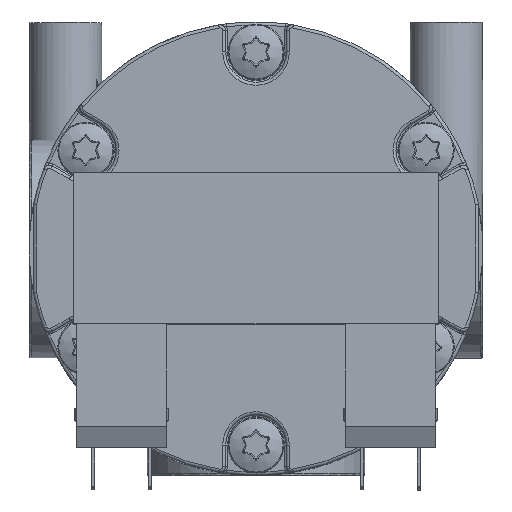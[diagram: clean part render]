
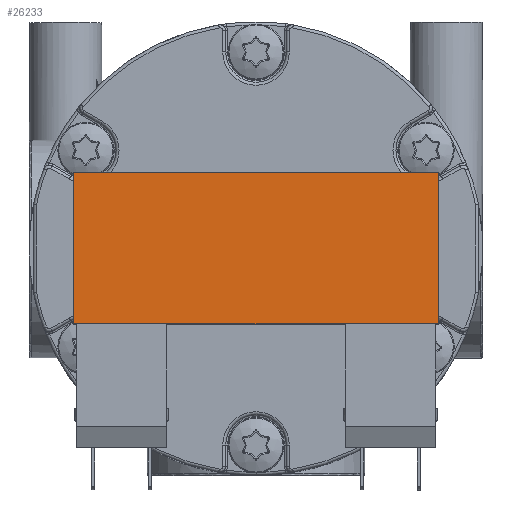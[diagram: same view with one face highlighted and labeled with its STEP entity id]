
A CAD part, top view. The second image highlights one B-rep face of the part: STEP entity #26233.
In plain terms, the highlighted planar face has unit normal (0, 0, 1).
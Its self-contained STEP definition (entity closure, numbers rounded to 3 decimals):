
#1389=PLANE('',#28211);
#2076=FACE_OUTER_BOUND('',#3736,.T.);
#3736=EDGE_LOOP('',(#17236,#17237,#17238,#17239,#17240,#17241,#17242,#17243));
#5456=LINE('',#41753,#6848);
#5464=LINE('',#41769,#6856);
#5468=LINE('',#41776,#6860);
#5471=LINE('',#41795,#6863);
#5473=LINE('',#41800,#6865);
#5474=LINE('',#41801,#6866);
#5475=LINE('',#41803,#6867);
#5478=LINE('',#41808,#6870);
#6848=VECTOR('',#32362,10.);
#6856=VECTOR('',#32378,10.);
#6860=VECTOR('',#32384,10.);
#6863=VECTOR('',#32407,10.);
#6865=VECTOR('',#32411,10.);
#6866=VECTOR('',#32412,10.);
#6867=VECTOR('',#32413,10.);
#6870=VECTOR('',#32418,10.);
#10160=VERTEX_POINT('',#41645);
#10193=VERTEX_POINT('',#41752);
#10196=VERTEX_POINT('',#41766);
#10197=VERTEX_POINT('',#41768);
#10198=VERTEX_POINT('',#41772);
#10199=VERTEX_POINT('',#41774);
#10207=VERTEX_POINT('',#41798);
#10208=VERTEX_POINT('',#41802);
#12811=EDGE_CURVE('',#10193,#10160,#5456,.T.);
#12819=EDGE_CURVE('',#10196,#10197,#5464,.T.);
#12823=EDGE_CURVE('',#10198,#10199,#5468,.T.);
#12832=EDGE_CURVE('',#10199,#10197,#5471,.T.);
#12834=EDGE_CURVE('',#10160,#10207,#5473,.T.);
#12835=EDGE_CURVE('',#10196,#10193,#5474,.T.);
#12836=EDGE_CURVE('',#10208,#10198,#5475,.T.);
#12839=EDGE_CURVE('',#10207,#10208,#5478,.T.);
#17236=ORIENTED_EDGE('',*,*,#12832,.T.);
#17237=ORIENTED_EDGE('',*,*,#12819,.F.);
#17238=ORIENTED_EDGE('',*,*,#12835,.T.);
#17239=ORIENTED_EDGE('',*,*,#12811,.T.);
#17240=ORIENTED_EDGE('',*,*,#12834,.T.);
#17241=ORIENTED_EDGE('',*,*,#12839,.T.);
#17242=ORIENTED_EDGE('',*,*,#12836,.T.);
#17243=ORIENTED_EDGE('',*,*,#12823,.T.);
#26233=ADVANCED_FACE('',(#2076),#1389,.T.);
#28211=AXIS2_PLACEMENT_3D('',#41807,#32416,#32417);
#32362=DIRECTION('',(1.,0.,0.));
#32378=DIRECTION('',(0.,1.,0.));
#32384=DIRECTION('',(0.,1.,0.));
#32407=DIRECTION('',(-1.,0.,0.));
#32411=DIRECTION('',(1.,0.,0.));
#32412=DIRECTION('',(1.,0.,0.));
#32413=DIRECTION('',(1.,0.,0.));
#32416=DIRECTION('center_axis',(0.,0.,
1.));
#32417=DIRECTION('ref_axis',(1.,0.,0.));
#32418=DIRECTION('',(1.,0.,0.));
#41645=CARTESIAN_POINT('',(-14.75,-12.5,82.8));
#41752=CARTESIAN_POINT('',(-29.75,-12.5,82.8));
#41753=CARTESIAN_POINT('',(-14.25,-12.5,82.8));
#41766=CARTESIAN_POINT('',(-30.25,-12.5,82.8));
#41768=CARTESIAN_POINT('',(-30.25,12.5,82.8));
#41769=CARTESIAN_POINT('',(-30.25,-12.5,82.8));
#41772=CARTESIAN_POINT('',(30.25,-12.5,82.8));
#41774=CARTESIAN_POINT('',(30.25,12.5,82.8));
#41776=CARTESIAN_POINT('',(30.25,-12.5,82.8));
#41795=CARTESIAN_POINT('',(-14.25,12.5,82.8));
#41798=CARTESIAN_POINT('',(14.75,-12.5,82.8));
#41800=CARTESIAN_POINT('',(-14.25,-12.5,82.8));
#41801=CARTESIAN_POINT('',(-14.25,-12.5,82.8));
#41802=CARTESIAN_POINT('',(29.75,-12.5,82.8));
#41803=CARTESIAN_POINT('',(-14.25,-12.5,82.8));
#41807=CARTESIAN_POINT('Origin',(-14.25,-12.5,82.8));
#41808=CARTESIAN_POINT('',(-14.25,-12.5,82.8));
